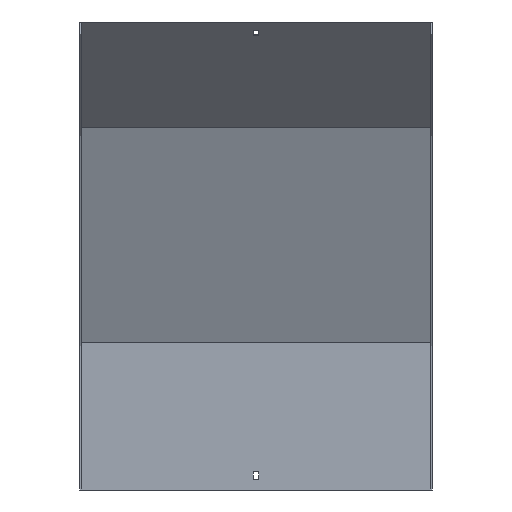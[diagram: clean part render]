
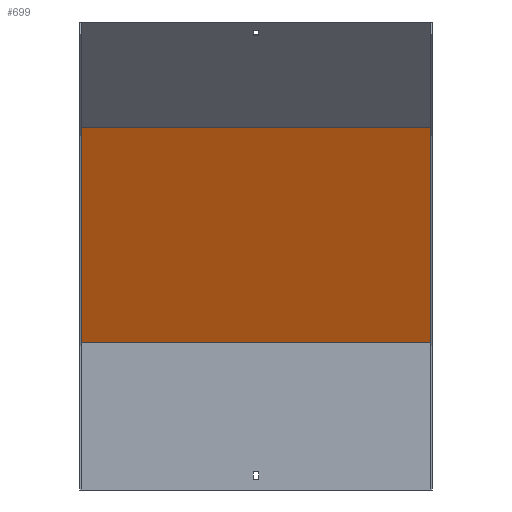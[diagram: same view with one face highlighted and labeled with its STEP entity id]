
A CAD part, front view. The second image highlights one B-rep face of the part: STEP entity #699.
In plain terms, the highlighted planar face has unit normal (0, -0.924, -0.383).
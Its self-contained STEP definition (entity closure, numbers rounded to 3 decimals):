
#4 = LINE ( 'NONE', #63, #619 ) ;
#17 = LINE ( 'NONE', #804, #523 ) ;
#57 = VERTEX_POINT ( 'NONE', #222 ) ;
#63 = CARTESIAN_POINT ( 'NONE',  ( 201.5, -83.431, 414.764 ) ) ;
#76 = DIRECTION ( 'NONE',  ( 0., -0.383, 0.924 ) ) ;
#103 = CARTESIAN_POINT ( 'NONE',  ( -200., 18.5, 168.68 ) ) ;
#163 = VERTEX_POINT ( 'NONE', #425 ) ;
#170 = EDGE_LOOP ( 'NONE', ( #839, #658, #398, #748 ) ) ;
#188 = VECTOR ( 'NONE', #76, 1000. ) ;
#222 = CARTESIAN_POINT ( 'NONE',  ( 200., -83.431, 414.764 ) ) ;
#393 = DIRECTION ( 'NONE',  ( -1., 0., 0. ) ) ;
#398 = ORIENTED_EDGE ( 'NONE', *, *, #720, .T. ) ;
#409 = CARTESIAN_POINT ( 'NONE',  ( 201.5, 17.092, 172.08 ) ) ;
#413 = AXIS2_PLACEMENT_3D ( 'NONE', #409, #596, #674 ) ;
#425 = CARTESIAN_POINT ( 'NONE',  ( -200., -83.431, 414.764 ) ) ;
#427 = VERTEX_POINT ( 'NONE', #103 ) ;
#446 = CARTESIAN_POINT ( 'NONE',  ( -200., 75.428, 31.243 ) ) ;
#465 = VECTOR ( 'NONE', #588, 1000. ) ;
#468 = DIRECTION ( 'NONE',  ( 0., -0.383, 0.924 ) ) ;
#515 = CARTESIAN_POINT ( 'NONE',  ( 201.5, 18.5, 168.68 ) ) ;
#523 = VECTOR ( 'NONE', #468, 1000. ) ;
#575 = EDGE_CURVE ( 'NONE', #57, #163, #4, .T. ) ;
#588 = DIRECTION ( 'NONE',  ( -1., 0., 0. ) ) ;
#596 = DIRECTION ( 'NONE',  ( 0., -0.924, -0.383 ) ) ;
#600 = FACE_OUTER_BOUND ( 'NONE', #170, .T. ) ;
#619 = VECTOR ( 'NONE', #393, 1000. ) ;
#632 = VERTEX_POINT ( 'NONE', #649 ) ;
#642 = LINE ( 'NONE', #446, #188 ) ;
#649 = CARTESIAN_POINT ( 'NONE',  ( 200., 18.5, 168.68 ) ) ;
#658 = ORIENTED_EDGE ( 'NONE', *, *, #659, .F. ) ;
#659 = EDGE_CURVE ( 'NONE', #632, #427, #661, .T. ) ;
#661 = LINE ( 'NONE', #515, #465 ) ;
#674 = DIRECTION ( 'NONE',  ( 0., 0.383, -0.924 ) ) ;
#680 = PLANE ( 'NONE',  #413 ) ;
#699 = ADVANCED_FACE ( 'NONE', ( #600 ), #680, .T. ) ;
#720 = EDGE_CURVE ( 'NONE', #632, #57, #17, .T. ) ;
#748 = ORIENTED_EDGE ( 'NONE', *, *, #575, .T. ) ;
#804 = CARTESIAN_POINT ( 'NONE',  ( 200., 75.428, 31.243 ) ) ;
#839 = ORIENTED_EDGE ( 'NONE', *, *, #842, .F. ) ;
#842 = EDGE_CURVE ( 'NONE', #427, #163, #642, .T. ) ;
